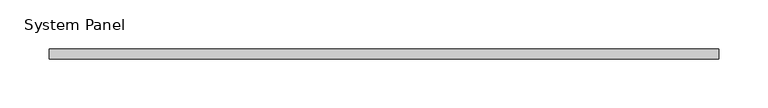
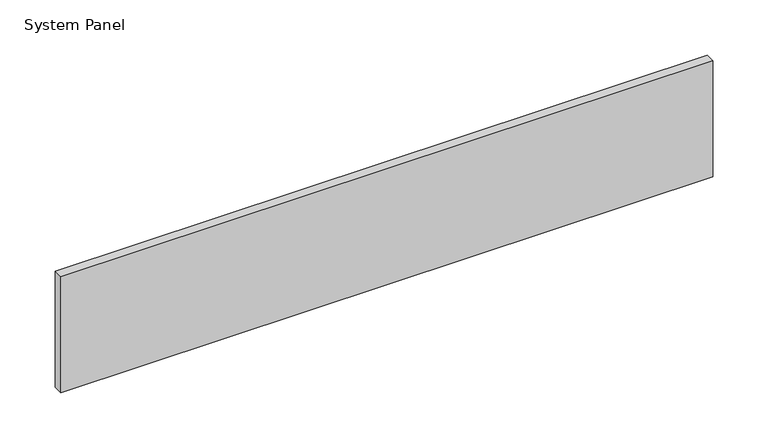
"""IFC4 building model written with IfcOpenShell, lengths in millimetres: plate geometry, System Panel : VACÍO."""

from ifc_helpers import new_model, si_unit, origin, origin_with_axes, place, context, project, spatial, polyline, outline, extrude, source, transform, mapped, element, save


def system_panel_5f4a1210(model_context):
    return source(origin(), model_context, "Body", "SweptSolid", [
        extrude(outline(polyline([(339.6880035, -5.0), (-339.6880035, -5.0), (-339.6880035, 5.0), (339.6880035, 5.0), (339.6880035, -5.0)])), origin_with_axes(), (0.0, 0.0, 1.0), 127.6666667),
    ])


if __name__ == "__main__":
    model = new_model("IFC4")
    model_context = context("Model", 3, world=origin())
    ifc_project = project(units=[si_unit("LENGTHUNIT", "METRE", prefix="MILLI")], contexts=[model_context])
    site = spatial("IfcSite", under=ifc_project)
    building = spatial("IfcBuilding", under=site)
    placement = place(None, origin())
    system_panel_shape = system_panel_5f4a1210(model_context)
    element("IfcPlate", 1, ObjectType="System Panel : VACÍO", at=placement, inside=building, context=model_context, shape_type="MappedRepresentation", body=[
        mapped(system_panel_shape, transform((0.0, 0.0, 0.0), x_axis=(1.0, 0.0, 0.0), y_axis=(0.0, 1.0, 0.0), z_axis=(0.0, 0.0, 1.0))),
    ])
    save(model, "model.ifc")
